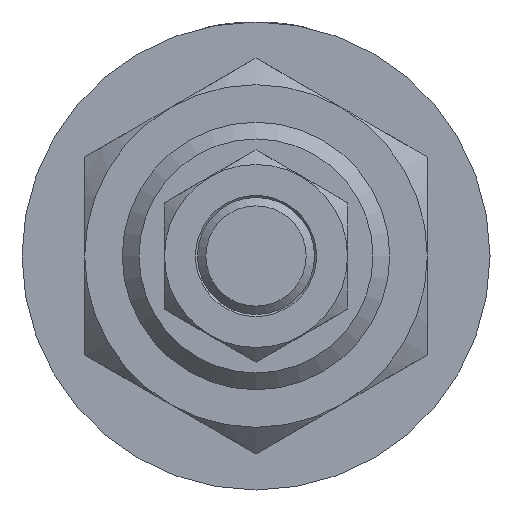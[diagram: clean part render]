
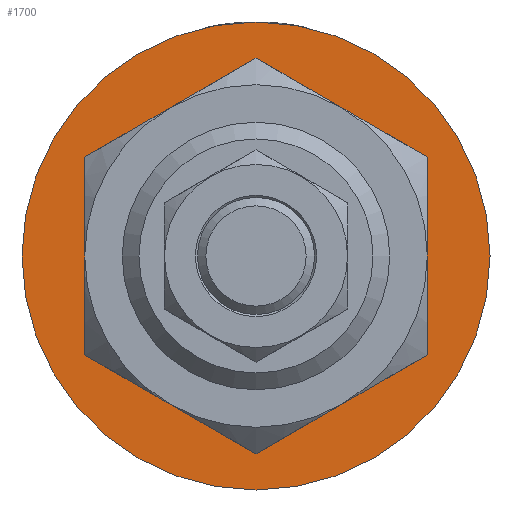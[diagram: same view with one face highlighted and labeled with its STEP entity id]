
A CAD part, front view. The second image highlights one B-rep face of the part: STEP entity #1700.
In plain terms, the highlighted planar face has unit normal (0, -1, 0).
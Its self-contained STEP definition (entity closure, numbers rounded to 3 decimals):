
#161=PLANE('',#1823);
#211=CIRCLE('',#1820,16.);
#213=CIRCLE('',#1824,28.);
#287=ORIENTED_EDGE('',*,*,#562,.T.);
#288=ORIENTED_EDGE('',*,*,#560,.T.);
#560=EDGE_CURVE('',#702,#702,#211,.F.);
#562=EDGE_CURVE('',#704,#704,#213,.T.);
#702=VERTEX_POINT('',#2366);
#704=VERTEX_POINT('',#2372);
#851=EDGE_LOOP('',(#287));
#852=EDGE_LOOP('',(#288));
#981=FACE_BOUND('',#851,.T.);
#982=FACE_BOUND('',#852,.T.);
#1700=ADVANCED_FACE('',(#981,#982),#161,.T.);
#1820=AXIS2_PLACEMENT_3D('',#2365,#1998,#1999);
#1823=AXIS2_PLACEMENT_3D('',#2370,#2004,#2005);
#1824=AXIS2_PLACEMENT_3D('',#2371,#2006,#2007);
#1998=DIRECTION('',(0.,-1.,0.));
#1999=DIRECTION('',(0.,0.,-1.));
#2004=DIRECTION('',(0.,-1.,0.));
#2005=DIRECTION('',(0.,0.,-1.));
#2006=DIRECTION('',(0.,-1.,0.));
#2007=DIRECTION('',(0.,0.,-1.));
#2365=CARTESIAN_POINT('',(0.,-22.,0.));
#2366=CARTESIAN_POINT('',(0.,-22.,-16.));
#2370=CARTESIAN_POINT('',(0.,-22.,0.));
#2371=CARTESIAN_POINT('',(0.,-22.,0.));
#2372=CARTESIAN_POINT('',(0.,-22.,-28.));
